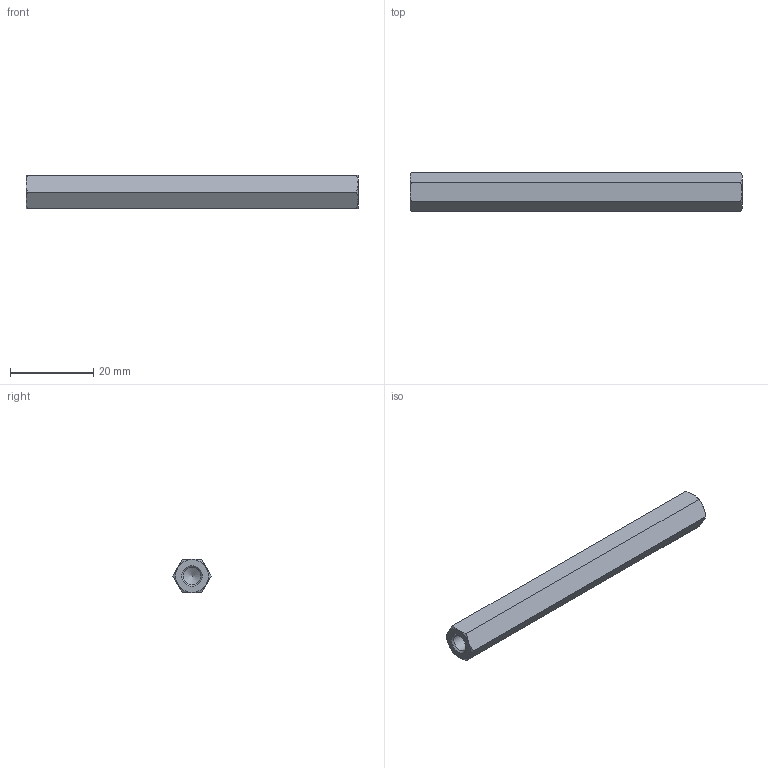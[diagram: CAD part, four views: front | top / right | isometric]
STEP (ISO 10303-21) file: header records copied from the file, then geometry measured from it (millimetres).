
FILE_DESCRIPTION( ( 'STEP AP203' ), '1' );
FILE_NAME( 'C:/Temp/Ganter_Step_05_03_2020/data/3_2/gn6220/gn6220_st/Spacer GN 6220-ST-M5-80-A.stp', '2020-03-13T05:42:28', ( 'License CC BY-ND 4.0' ), ( 'CADENAS' ), ' ', 'PARTsolutions', ' ' );
FILE_SCHEMA( ( 'CONFIG_CONTROL_DESIGN' ) );
Length unit declared in the file: millimetre
Products named in the file (1): _Spacer GN 6220-ST-M5-80-A
Bounding box: 80 x 9.24 x 8 mm (x, y, z)
Volume: 4038.1 mm3; surface area: 2689.9 mm2
Topology: 1 solids, 1 shells, 26 faces, 57 edges, 33 vertices
Faces by surface type: cone 16, plane 8, cylinder 2
Full cylindrical faces by diameter (mm): 4.134 x2
Entity records: 750 total; most frequent: CARTESIAN_POINT 211, DIRECTION 96, ORIENTED_EDGE 96, EDGE_CURVE 48, AXIS2_PLACEMENT_3D 45, EDGE_LOOP 32, VERTEX_POINT 32, FACE_OUTER_BOUND 28
